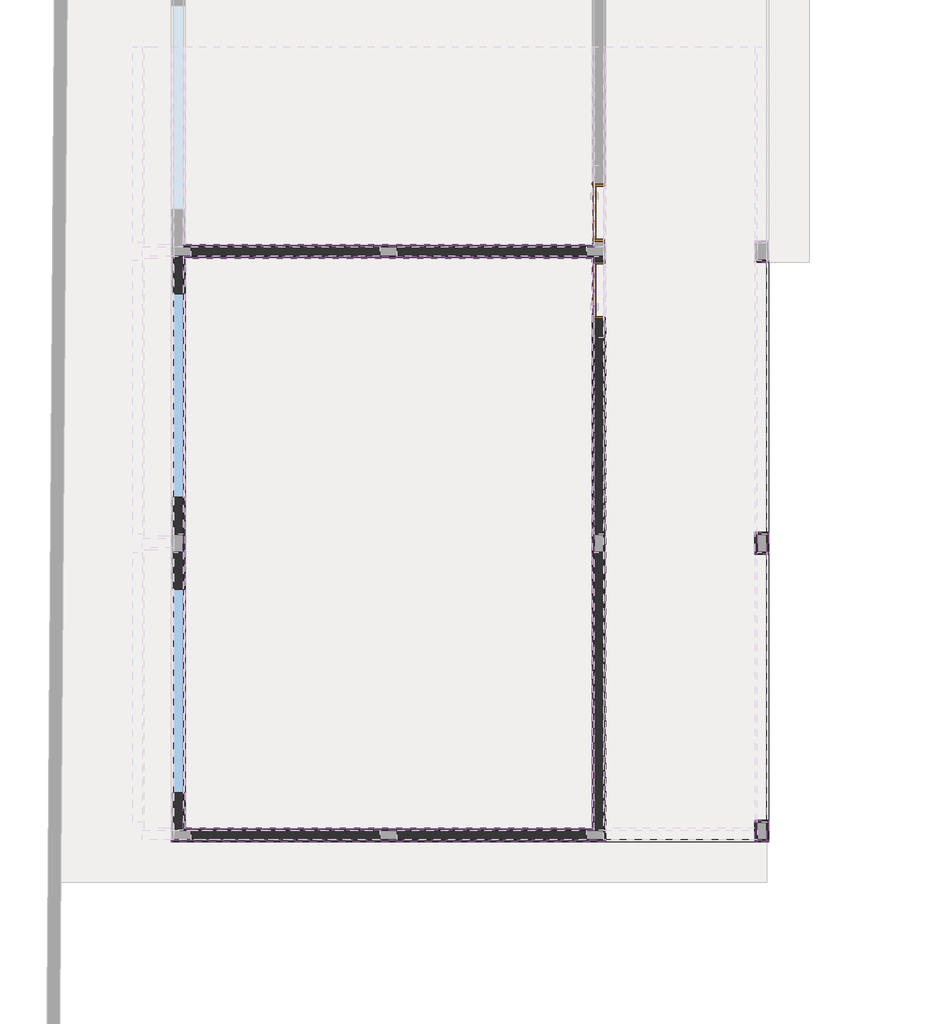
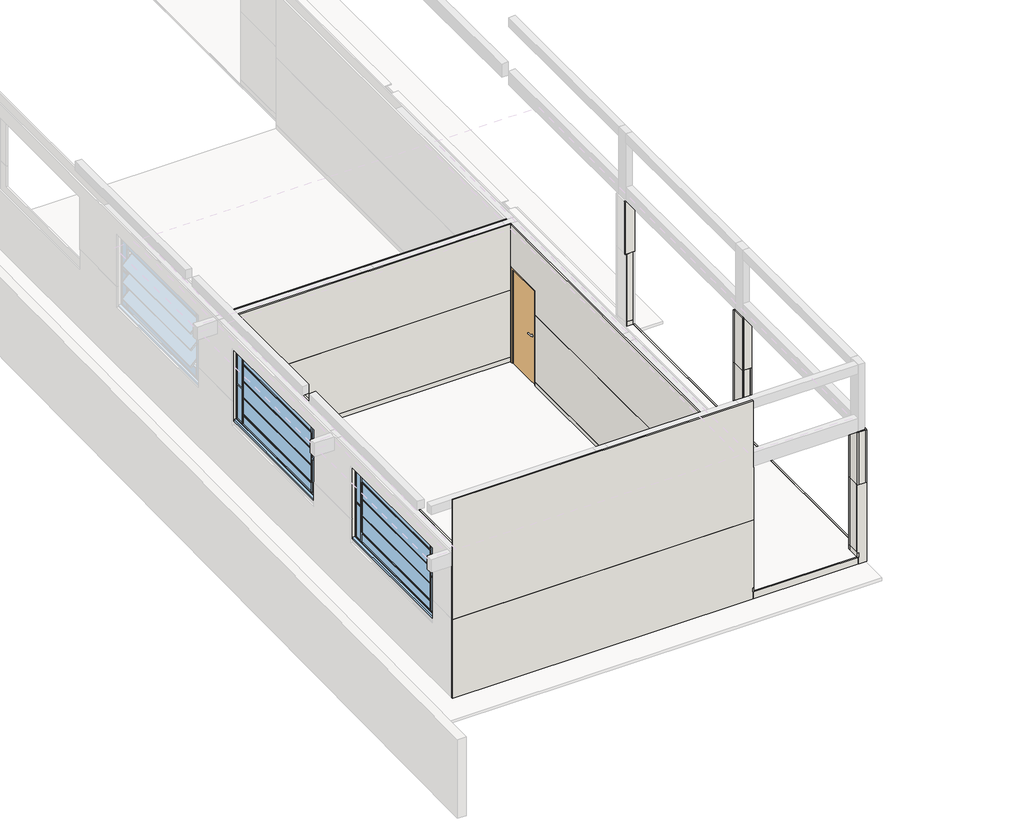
# One storey, part 1 of 11: 60 walls, 2 doors, 2 windows.
"""IFC4 building model written with IfcOpenShell, lengths in millimetres."""

from ifc_helpers import new_model, si_unit, frame, origin, place, context, project, spatial, polyline, outline, extrude, faceted_brep, transform, mapped, element, save
from components import door_80_x_210_cm_externa_36d8658d, door_80_x_210_cm_externa_7cd48cfd, window_0c15b8cc

model = new_model("IFC4")

# Units and contexts
model_context = context("Model", 3, world=origin())
ifc_project = project(units=[si_unit("LENGTHUNIT", "METRE", prefix="MILLI")], contexts=[model_context])

# Site, building, storey
site = spatial("IfcSite", under=ifc_project)
building = spatial("IfcBuilding", under=site)
storey = spatial("IfcBuildingStorey", under=building, Name="NÍVEL 1", Elevation=43.4413576)

# Doors
placement = place(None, origin())
door_80_x_210_cm_externa_shape = door_80_x_210_cm_externa_36d8658d(model_context)
element("IfcDoor", 1, ObjectType="POR_PM_GIRO_1FL : 80 x 210 cm Externa", at=placement, inside=storey, context=model_context, shape_type="MappedRepresentation", body=[
    mapped(door_80_x_210_cm_externa_shape, transform((9202.3574069, -18497.9280358, 63.4413576), x_axis=(0.0, -1.0, 0.0), y_axis=(1.0, 0.0, 0.0), z_axis=(0.0, 0.0, 1.0))),
])
door_80_x_210_cm_externa_2_shape = door_80_x_210_cm_externa_7cd48cfd(model_context)
element("IfcDoor", 2, ObjectType="POR_PM_GIRO_1FL : 80 x 210 cm Externa", at=placement, inside=storey, context=model_context, shape_type="MappedRepresentation", body=[
    mapped(door_80_x_210_cm_externa_2_shape, transform((9202.3574069, -17357.9280358, 63.4413576), x_axis=(0.0, 1.0, 0.0), y_axis=(-1.0, 0.0, 0.0), z_axis=(0.0, 0.0, 1.0))),
])

# Walls
element("IfcWall", 3, ObjectType="PARE.ALVE ALVENARIA DE BLOCOS CERÂMICOS FURADOS NA HORIZONTAL 14X9X19", at=placement, inside=storey, context=model_context, shape_type="Brep", body=[
    faceted_brep([(3072.3574069, -22357.9280358, 1203.4413576), (3072.3574069, -22357.9280358, 2843.4413576), (3072.3574069, -22907.9280358, 2843.4413576), (3072.3574069, -22907.9280358, 1203.4413576), (2932.3574069, -22357.9280358, 2843.4413576), (2932.3574069, -22357.9280358, 1203.4413576), (2932.3574069, -22907.9280358, 1203.4413576), (2932.3574069, -22907.9280358, 2843.4413576)], [[[0, 1, 2, 3]], [[4, 5, 6, 7]], [[5, 0, 3, 6]], [[1, 0, 5, 4]], [[1, 4, 7, 2]], [[3, 2, 7, 6]]]),
    faceted_brep([(3072.3574069, -26457.9280358, 2843.4413576), (3072.3574069, -26457.9280358, 1663.4413576), (3072.3574069, -26457.9280358, 1203.4413576), (3072.3574069, -25907.9280358, 1203.4413576), (3072.3574069, -25907.9280358, 2843.4413576), (2932.3574069, -26457.9280358, 1203.4413576), (2932.3574069, -26457.9280358, 2843.4413576), (2932.3574069, -25907.9280358, 2843.4413576), (2932.3574069, -25907.9280358, 1203.4413576)], [[[0, 1, 2, 3, 4]], [[5, 6, 7, 8]], [[2, 5, 8, 3]], [[6, 0, 4, 7]], [[4, 3, 8, 7]], [[0, 6, 5, 2, 1]]]),
])
element("IfcWall", 4, ObjectType="PARE.ALVE ALVENARIA DE BLOCOS CERÂMICOS FURADOS NA HORIZONTAL 14X9X19", at=placement, inside=storey, context=model_context, shape_type="Brep", body=[
    faceted_brep([(9272.3574069, -26457.9280358, 2843.4413576), (9272.3574069, -26457.9280358, 43.4413576), (9272.3574069, -22357.9280358, 43.4413576), (9272.3574069, -22357.9280358, 2843.4413576), (9132.3574069, -26457.9280358, 43.4413576), (9132.3574069, -26457.9280358, 163.4413576), (9132.3574069, -26457.9280358, 1663.4413576), (9132.3574069, -26457.9280358, 2843.4413576), (9132.3574069, -22357.9280358, 2843.4413576), (9132.3574069, -22357.9280358, 43.4413576)], [[[0, 1, 2, 3]], [[4, 5, 6, 7, 8, 9]], [[2, 1, 4, 9]], [[3, 2, 9, 8]], [[0, 3, 8, 7]], [[0, 7, 6, 5, 4, 1]]]),
])
element("IfcWall", 5, ObjectType="PARE.ALVE ALVENARIA DE BLOCOS CERÂMICOS FURADOS NA HORIZONTAL 14X9X19", at=placement, inside=storey, context=model_context, shape_type="Brep", body=[
    faceted_brep([(9272.3574069, -17997.9280358, 2843.4413576), (9272.3574069, -22097.9280358, 2843.4413576), (9272.3574069, -22097.9280358, 43.4413576), (9272.3574069, -18917.9280358, 43.4413576), (9272.3574069, -18917.9280358, 2163.4413576), (9272.3574069, -18077.9280358, 2163.4413576), (9272.3574069, -18077.9280358, 43.4413576), (9272.3574069, -17997.9280358, 43.4413576), (9272.3574069, -17997.9280358, 2208.4413576), (9272.3574069, -19197.9280358, 2208.4413576), (9272.3574069, -19197.9280358, 2308.4413576), (9272.3574069, -17997.9280358, 2308.4413576), (9132.3574069, -22097.9280358, 2843.4413576), (9132.3574069, -17997.9280358, 2843.4413576), (9132.3574069, -17997.9280358, 2308.4413576), (9132.3574069, -19197.9280358, 2308.4413576), (9132.3574069, -19197.9280358, 2208.4413576), (9132.3574069, -17997.9280358, 2208.4413576), (9132.3574069, -17997.9280358, 1663.4413576), (9132.3574069, -17997.9280358, 163.4413576), (9132.3574069, -17997.9280358, 43.4413576), (9132.3574069, -18077.9280358, 43.4413576), (9132.3574069, -18077.9280358, 2163.4413576), (9132.3574069, -18917.9280358, 2163.4413576), (9132.3574069, -18917.9280358, 43.4413576), (9132.3574069, -22097.9280358, 43.4413576)], [[[0, 1, 2, 3, 4, 5, 6, 7, 8, 9, 10, 11]], [[12, 13, 14, 15, 16, 17, 18, 19, 20, 21, 22, 23, 24, 25]], [[2, 25, 24, 3]], [[7, 6, 21, 20]], [[1, 0, 13, 12]], [[2, 1, 12, 25]], [[5, 22, 21, 6]], [[23, 4, 3, 24]], [[22, 5, 4, 23]], [[7, 20, 19, 18, 17, 8]], [[13, 0, 11, 14]], [[10, 15, 14, 11]], [[15, 10, 9, 16]], [[16, 9, 8, 17]]]),
])
element("IfcWall", 6, ObjectType="PARE.ALVE ALVENARIA DE BLOCOS CERÂMICOS FURADOS NA HORIZONTAL 14X9X19", at=placement, inside=storey, context=model_context, shape_type="SweptSolid", body=[
    extrude(outline(polyline([(5972.3574069, -26597.9280358), (3192.3574069, -26597.9280358), (3192.3574069, -26457.9280358), (5972.3574069, -26457.9280358), (5972.3574069, -26597.9280358)])), frame((0.0, 0.0, 43.4413576), z_axis=(0.0, 0.0, 1.0), x_axis=(1.0, 0.0, 0.0)), (0.0, 0.0, 1.0), 2800.0),
])
element("IfcWall", 7, ObjectType="PARE.ALVE ALVENARIA DE BLOCOS CERÂMICOS FURADOS NA HORIZONTAL 14X9X19", at=placement, inside=storey, context=model_context, shape_type="SweptSolid", body=[
    extrude(outline(polyline([(9012.3574069, -26597.9280358), (6232.3574069, -26597.9280358), (6232.3574069, -26457.9280358), (9012.3574069, -26457.9280358), (9012.3574069, -26597.9280358)])), frame((0.0, 0.0, 43.4413576), z_axis=(0.0, 0.0, 1.0), x_axis=(1.0, 0.0, 0.0)), (0.0, 0.0, 1.0), 2800.0),
])
element("IfcWall", 8, ObjectType="PARE.ALVE ALVENARIA DE BLOCOS CERÂMICOS FURADOS NA HORIZONTAL 14X9X19", at=placement, inside=storey, context=model_context, shape_type="SweptSolid", body=[
    extrude(outline(polyline([(5972.3574069, -17997.9280358), (3192.3574069, -17997.9280358), (3192.3574069, -17857.9280358), (5972.3574069, -17857.9280358), (5972.3574069, -17997.9280358)])), frame((0.0, 0.0, 43.4413576), z_axis=(0.0, 0.0, 1.0), x_axis=(1.0, 0.0, 0.0)), (0.0, 0.0, 1.0), 2800.0),
])
element("IfcWall", 9, ObjectType="PARE.ALVE ALVENARIA DE BLOCOS CERÂMICOS FURADOS NA HORIZONTAL 14X9X19", at=placement, inside=storey, context=model_context, shape_type="SweptSolid", body=[
    extrude(outline(polyline([(9012.3574069, -17997.9280358), (6232.3574069, -17997.9280358), (6232.3574069, -17857.9280358), (9012.3574069, -17857.9280358), (9012.3574069, -17997.9280358)])), frame((0.0, 0.0, 43.4413576), z_axis=(0.0, 0.0, 1.0), x_axis=(1.0, 0.0, 0.0)), (0.0, 0.0, 1.0), 2800.0),
])
element("IfcWall", 10, ObjectType="PARE.ALVE ALVENARIA DE BLOCOS CERÂMICOS FURADOS NA HORIZONTAL 14X9X19", at=placement, inside=storey, context=model_context, shape_type="Brep", body=[
    faceted_brep([(3072.3574069, -26457.9280358, 1003.4413576), (3072.3574069, -26457.9280358, 163.4413576), (3072.3574069, -26457.9280358, 63.4413576), (3072.3574069, -26457.9280358, 43.4413576), (3072.3574069, -22357.9280358, 43.4413576), (3072.3574069, -22357.9280358, 1003.4413576), (2932.3574069, -26457.9280358, 43.4413576), (2932.3574069, -26457.9280358, 1003.4413576), (2932.3574069, -22357.9280358, 1003.4413576), (2932.3574069, -22357.9280358, 43.4413576)], [[[0, 1, 2, 3, 4, 5]], [[6, 7, 8, 9]], [[4, 3, 6, 9]], [[5, 4, 9, 8]], [[0, 5, 8, 7]], [[0, 7, 6, 3, 2, 1]]]),
])
element("IfcWall", 11, ObjectType="PARE.ALVE ALVENARIA DE BLOCOS CERÂMICOS FURADOS NA HORIZONTAL 14X9X19", at=placement, inside=storey, context=model_context, shape_type="SweptSolid", body=[
    extrude(outline(polyline([(3072.3574069, -22097.9280358), (2932.3574069, -22097.9280358), (2932.3574069, -21547.9280358), (3072.3574069, -21547.9280358), (3072.3574069, -22097.9280358)])), frame((0.0, 0.0, 1203.4413576), z_axis=(0.0, 0.0, 1.0), x_axis=(1.0, 0.0, 0.0)), (0.0, 0.0, 1.0), 1640.0),
    extrude(outline(polyline([(-17997.9280358, 1663.4413576), (-18027.9280358, 1663.4413576), (-18027.9280358, 1203.4413576), (-18547.9280358, 1203.4413576), (-18547.9280358, 2843.4413576), (-17997.9280358, 2843.4413576), (-17997.9280358, 1663.4413576)])), frame((2932.3574069, 0.0, 0.0), z_axis=(1.0, 0.0, 0.0), x_axis=(0.0, 1.0, 0.0)), (0.0, 0.0, 1.0), 140.0),
])
element("IfcWall", 12, ObjectType="PARE.ALVE ALVENARIA DE BLOCOS CERÂMICOS FURADOS NA HORIZONTAL 14X9X19", at=placement, inside=storey, context=model_context, shape_type="Brep", body=[
    faceted_brep([(3072.3574069, -22097.9280358, 43.4413576), (3072.3574069, -17997.9280358, 43.4413576), (3072.3574069, -17997.9280358, 63.4413576), (3072.3574069, -17997.9280358, 163.4413576), (3072.3574069, -17997.9280358, 1003.4413576), (3072.3574069, -22097.9280358, 1003.4413576), (2932.3574069, -22097.9280358, 43.4413576), (2932.3574069, -22097.9280358, 1003.4413576), (2932.3574069, -17997.9280358, 1003.4413576), (2932.3574069, -17997.9280358, 43.4413576)], [[[0, 1, 2, 3, 4, 5]], [[6, 7, 8, 9]], [[1, 0, 6, 9]], [[5, 4, 8, 7]], [[0, 5, 7, 6]], [[1, 9, 8, 4, 3, 2]]]),
])
element("IfcWall", 13, ObjectType="RODAPÉ EM GRANILITE", at=placement, inside=storey, context=model_context, shape_type="Brep", body=[
    faceted_brep([(3072.3574069, -18027.9280358, 63.4413576), (3102.3574069, -18027.9280358, 63.4413576), (9102.3574069, -18027.9280358, 63.4413576), (9132.3574069, -18027.9280358, 63.4413576), (9132.3574069, -18027.9280358, 163.4413576), (9102.3574069, -18027.9280358, 163.4413576), (3102.3574069, -18027.9280358, 163.4413576), (3072.3574069, -18027.9280358, 163.4413576), (3072.3574069, -17997.9280358, 63.4413576), (3072.3574069, -17997.9280358, 163.4413576), (9132.3574069, -17997.9280358, 163.4413576), (9132.3574069, -17997.9280358, 63.4413576)], [[[0, 1, 2, 3, 4, 5, 6, 7]], [[8, 9, 10, 11]], [[3, 2, 1, 0, 8, 11]], [[7, 6, 5, 4, 10, 9]], [[4, 3, 11, 10]], [[0, 7, 9, 8]]]),
])
element("IfcWall", 14, ObjectType="RODAPÉ EM GRANILITE", at=placement, inside=storey, context=model_context, shape_type="SweptSolid", body=[
    extrude(outline(polyline([(9102.3574069, -18047.9280358), (9102.3574069, -18027.9280358), (9132.3574069, -18027.9280358), (9132.3574069, -18047.9280358), (9102.3574069, -18047.9280358)])), frame((0.0, 0.0, 63.4413576), z_axis=(0.0, 0.0, 1.0), x_axis=(1.0, 0.0, 0.0)), (0.0, 0.0, 1.0), 100.0),
])
element("IfcWall", 15, ObjectType="RODAPÉ EM GRANILITE", at=placement, inside=storey, context=model_context, shape_type="SweptSolid", body=[
    extrude(outline(polyline([(9102.3574069, -26427.9280358), (9102.3574069, -18947.9280358), (9132.3574069, -18947.9280358), (9132.3574069, -26427.9280358), (9102.3574069, -26427.9280358)])), frame((0.0, 0.0, 63.4413576), z_axis=(0.0, 0.0, 1.0), x_axis=(1.0, 0.0, 0.0)), (0.0, 0.0, 1.0), 100.0),
])
element("IfcWall", 16, ObjectType="RODAPÉ EM GRANILITE", at=placement, inside=storey, context=model_context, shape_type="Brep", body=[
    faceted_brep([(9132.3574069, -26427.9280358, 63.4413576), (3102.3574069, -26427.9280358, 63.4413576), (3072.3574069, -26427.9280358, 63.4413576), (3072.3574069, -26427.9280358, 163.4413576), (3102.3574069, -26427.9280358, 163.4413576), (9132.3574069, -26427.9280358, 163.4413576), (9132.3574069, -26457.9280358, 63.4413576), (9132.3574069, -26457.9280358, 163.4413576), (3072.3574069, -26457.9280358, 163.4413576), (3072.3574069, -26457.9280358, 63.4413576)], [[[0, 1, 2, 3, 4, 5]], [[6, 7, 8, 9]], [[2, 1, 0, 6, 9]], [[5, 4, 3, 8, 7]], [[3, 2, 9, 8]], [[0, 5, 7, 6]]]),
])
element("IfcWall", 17, ObjectType="RODAPÉ EM GRANILITE", at=placement, inside=storey, context=model_context, shape_type="SweptSolid", body=[
    extrude(outline(polyline([(3102.3574069, -18027.9280358), (3102.3574069, -26427.9280358), (3072.3574069, -26427.9280358), (3072.3574069, -18027.9280358), (3102.3574069, -18027.9280358)])), frame((0.0, 0.0, 63.4413576), z_axis=(0.0, 0.0, 1.0), x_axis=(1.0, 0.0, 0.0)), (0.0, 0.0, 1.0), 100.0),
])
element("IfcWall", 18, ObjectType="MASSA ÚNICA PARA BARRADO", at=placement, inside=storey, context=model_context, shape_type="SweptSolid", body=[
    extrude(outline(polyline([(9102.3574069, -18027.9280358), (9132.3574069, -18027.9280358), (9132.3574069, -18047.9280358), (9102.3574069, -18047.9280358), (9102.3574069, -18027.9280358)])), frame((0.0, 0.0, 163.4413576), z_axis=(0.0, 0.0, 1.0), x_axis=(1.0, 0.0, 0.0)), (0.0, 0.0, 1.0), 1500.0),
    extrude(outline(polyline([(9132.3574069, -26427.9280358), (9102.3574069, -26427.9280358), (9102.3574069, -18947.9280358), (9132.3574069, -18947.9280358), (9132.3574069, -26427.9280358)])), frame((0.0, 0.0, 163.4413576), z_axis=(0.0, 0.0, 1.0), x_axis=(1.0, 0.0, 0.0)), (0.0, 0.0, 1.0), 1500.0),
])
element("IfcWall", 19, ObjectType="MASSA ÚNICA PARA BARRADO", at=placement, inside=storey, context=model_context, shape_type="Brep", body=[
    faceted_brep([(3072.3574069, -18027.9280358, 163.4413576), (3102.3574069, -18027.9280358, 163.4413576), (9102.3574069, -18027.9280358, 163.4413576), (9132.3574069, -18027.9280358, 163.4413576), (9132.3574069, -18027.9280358, 1663.4413576), (9102.3574069, -18027.9280358, 1663.4413576), (3102.3574069, -18027.9280358, 1663.4413576), (3072.3574069, -18027.9280358, 1663.4413576), (2932.3574069, -18027.9280358, 1663.4413576), (2932.3574069, -18027.9280358, 1203.4413576), (3072.3574069, -18027.9280358, 1203.4413576), (3072.3574069, -17997.9280358, 163.4413576), (3072.3574069, -17997.9280358, 1203.4413576), (2932.3574069, -17997.9280358, 1203.4413576), (2932.3574069, -17997.9280358, 1663.4413576), (3072.3574069, -17997.9280358, 1663.4413576), (9132.3574069, -17997.9280358, 1663.4413576), (9132.3574069, -17997.9280358, 163.4413576)], [[[0, 1, 2, 3, 4, 5, 6, 7, 8, 9, 10]], [[11, 12, 13, 14, 15, 16, 17]], [[3, 2, 1, 0, 11, 17]], [[8, 7, 6, 5, 4, 16, 15, 14]], [[9, 13, 12, 10]], [[0, 10, 12, 11]], [[9, 8, 14, 13]], [[4, 3, 17, 16]]]),
])
element("IfcWall", 20, ObjectType="MASSA ÚNICA PARA BARRADO", at=placement, inside=storey, context=model_context, shape_type="Brep", body=[
    faceted_brep([(9132.3574069, -26427.9280358, 163.4413576), (9102.3574069, -26427.9280358, 163.4413576), (3102.3574069, -26427.9280358, 163.4413576), (3072.3574069, -26427.9280358, 163.4413576), (3072.3574069, -26427.9280358, 1663.4413576), (3102.3574069, -26427.9280358, 1663.4413576), (9102.3574069, -26427.9280358, 1663.4413576), (9132.3574069, -26427.9280358, 1663.4413576), (9132.3574069, -26457.9280358, 163.4413576), (9132.3574069, -26457.9280358, 1663.4413576), (3072.3574069, -26457.9280358, 1663.4413576), (3072.3574069, -26457.9280358, 1203.4413576), (3072.3574069, -26457.9280358, 163.4413576)], [[[0, 1, 2, 3, 4, 5, 6, 7]], [[8, 9, 10, 11, 12]], [[3, 2, 1, 0, 8, 12]], [[7, 6, 5, 4, 10, 9]], [[3, 12, 11, 10, 4]], [[0, 7, 9, 8]]]),
])
element("IfcWall", 21, ObjectType="MASSA ÚNICA PARA BARRADO", at=placement, inside=storey, context=model_context, shape_type="Brep", body=[
    faceted_brep([(3102.3574069, -26427.9280358, 163.4413576), (3102.3574069, -18027.9280358, 163.4413576), (3102.3574069, -18027.9280358, 1663.4413576), (3102.3574069, -18547.9280358, 1663.4413576), (3102.3574069, -18547.9280358, 1203.4413576), (3102.3574069, -21547.9280358, 1203.4413576), (3102.3574069, -21547.9280358, 1663.4413576), (3102.3574069, -22907.9280358, 1663.4413576), (3102.3574069, -22907.9280358, 1203.4413576), (3102.3574069, -25907.9280358, 1203.4413576), (3102.3574069, -25907.9280358, 1663.4413576), (3102.3574069, -26427.9280358, 1663.4413576), (3072.3574069, -18027.9280358, 163.4413576), (3072.3574069, -26427.9280358, 163.4413576), (3072.3574069, -26427.9280358, 1663.4413576), (3072.3574069, -25907.9280358, 1663.4413576), (3072.3574069, -25907.9280358, 1203.4413576), (3072.3574069, -22907.9280358, 1203.4413576), (3072.3574069, -22907.9280358, 1663.4413576), (3072.3574069, -21547.9280358, 1663.4413576), (3072.3574069, -21547.9280358, 1203.4413576), (3072.3574069, -18547.9280358, 1203.4413576), (3072.3574069, -18547.9280358, 1663.4413576), (3072.3574069, -18027.9280358, 1663.4413576), (3072.3574069, -18027.9280358, 1203.4413576)], [[[0, 1, 2, 3, 4, 5, 6, 7, 8, 9, 10, 11]], [[12, 13, 14, 15, 16, 17, 18, 19, 20, 21, 22, 23, 24]], [[1, 0, 13, 12]], [[14, 11, 10, 15]], [[2, 23, 22, 3]], [[18, 7, 6, 19]], [[2, 1, 12, 24, 23]], [[0, 11, 14, 13]], [[8, 17, 16, 9]], [[9, 16, 15, 10]], [[17, 8, 7, 18]], [[4, 21, 20, 5]], [[5, 20, 19, 6]], [[21, 4, 3, 22]]]),
])
element("IfcWall", 22, ObjectType="MASSA ÚNICA PARA LATEX", at=placement, inside=storey, context=model_context, shape_type="Brep", body=[
    faceted_brep([(3072.3574069, -18027.9280358, 1663.4413576), (3102.3574069, -18027.9280358, 1663.4413576), (9102.3574069, -18027.9280358, 1663.4413576), (9132.3574069, -18027.9280358, 1663.4413576), (9132.3574069, -18027.9280358, 3143.4413576), (9102.3574069, -18027.9280358, 3143.4413576), (3102.3574069, -18027.9280358, 3143.4413576), (3072.3574069, -18027.9280358, 3143.4413576), (3072.3574069, -17997.9280358, 1663.4413576), (3072.3574069, -17997.9280358, 2843.4413576), (3072.3574069, -17997.9280358, 3143.4413576), (9132.3574069, -17997.9280358, 3143.4413576), (9132.3574069, -17997.9280358, 2843.4413576), (9132.3574069, -17997.9280358, 2308.4413576), (9132.3574069, -17997.9280358, 2208.4413576), (9132.3574069, -17997.9280358, 1663.4413576)], [[[0, 1, 2, 3, 4, 5, 6, 7]], [[8, 9, 10, 11, 12, 13, 14, 15]], [[3, 2, 1, 0, 8, 15]], [[7, 6, 5, 4, 11, 10]], [[4, 3, 15, 14, 13, 12, 11]], [[0, 7, 10, 9, 8]]]),
])
element("IfcWall", 23, ObjectType="MASSA ÚNICA PARA LATEX", at=placement, inside=storey, context=model_context, shape_type="SweptSolid", body=[
    extrude(outline(polyline([(-26427.9280358, 1663.4413576), (-26427.9280358, 3143.4413576), (-18027.9280358, 3143.4413576), (-18027.9280358, 1663.4413576), (-18047.9280358, 1663.4413576), (-18047.9280358, 2213.4413576), (-18947.9280358, 2213.4413576), (-18947.9280358, 1663.4413576), (-26427.9280358, 1663.4413576)])), frame((9102.3574069, 0.0, 0.0), z_axis=(1.0, 0.0, 0.0), x_axis=(0.0, 1.0, 0.0)), (0.0, 0.0, 1.0), 30.0),
])
element("IfcWall", 24, ObjectType="MASSA ÚNICA PARA LATEX", at=placement, inside=storey, context=model_context, shape_type="Brep", body=[
    faceted_brep([(9132.3574069, -26427.9280358, 3143.4413576), (9132.3574069, -26427.9280358, 1663.4413576), (9102.3574069, -26427.9280358, 1663.4413576), (3102.3574069, -26427.9280358, 1663.4413576), (3072.3574069, -26427.9280358, 1663.4413576), (3072.3574069, -26427.9280358, 3143.4413576), (3102.3574069, -26427.9280358, 3143.4413576), (9102.3574069, -26427.9280358, 3143.4413576), (9132.3574069, -26457.9280358, 1663.4413576), (9132.3574069, -26457.9280358, 2843.4413576), (9132.3574069, -26457.9280358, 3143.4413576), (3072.3574069, -26457.9280358, 3143.4413576), (3072.3574069, -26457.9280358, 2843.4413576), (3072.3574069, -26457.9280358, 1663.4413576)], [[[0, 1, 2, 3, 4, 5, 6, 7]], [[8, 9, 10, 11, 12, 13]], [[4, 3, 2, 1, 8, 13]], [[0, 7, 6, 5, 11, 10]], [[5, 4, 13, 12, 11]], [[0, 10, 9, 8, 1]]]),
])
element("IfcWall", 25, ObjectType="MASSA ÚNICA PARA LATEX", at=placement, inside=storey, context=model_context, shape_type="SweptSolid", body=[
    extrude(outline(polyline([(-18027.9280358, 3143.4413576), (-18027.9280358, 1663.4413576), (-18547.9280358, 1663.4413576), (-18547.9280358, 2843.4413576), (-21548.2227816, 2843.4413576), (-21548.2227816, 1663.4413576), (-22907.8834454, 1663.4413576), (-22907.8834454, 2843.4413576), (-25908.1688014, 2843.4413576), (-25908.1688014, 1663.4413576), (-26427.9280358, 1663.4413576), (-26427.9280358, 3143.4413576), (-18027.9280358, 3143.4413576)])), frame((3072.3574069, 0.0, 0.0), z_axis=(1.0, 0.0, 0.0), x_axis=(0.0, 1.0, 0.0)), (0.0, 0.0, 1.0), 30.0),
])
element("IfcWall", 26, ObjectType="RODAPÉ EM GRANILITE", at=placement, inside=storey, context=model_context, shape_type="Brep", body=[
    faceted_brep([(9302.3574069, -26627.9280358, 43.4413576), (9302.3574069, -18942.9280358, 43.4413576), (9302.3574069, -18942.9280358, 143.4413576), (9302.3574069, -26597.9280358, 143.4413576), (9302.3574069, -26627.9280358, 143.4413576), (9272.3574069, -26627.9280358, 43.4413576), (9272.3574069, -26627.9280358, 143.4413576), (9272.3574069, -26597.9280358, 143.4413576), (9272.3574069, -18942.9280358, 143.4413576), (9272.3574069, -18942.9280358, 43.4413576), (9272.3574069, -26597.9280358, 43.4413576), (9287.3574069, -26627.9280358, 43.4413576)], [[[0, 1, 2, 3, 4]], [[5, 6, 7, 8, 9, 10]], [[1, 0, 11, 5, 10, 9]], [[2, 1, 9, 8]], [[4, 3, 2, 8, 7, 6]], [[0, 4, 6, 5, 11]]]),
])
element("IfcWall", 27, ObjectType="MASSA ÚNICA SARRAFEADA PARA ACRILICO", at=placement, inside=storey, context=model_context, shape_type="Brep", body=[
    faceted_brep([(2902.3574069, -26627.9280358, 1663.4413576), (9302.3574069, -26627.9280358, 1663.4413576), (9302.3574069, -26627.9280358, 2843.4413576), (9287.3574069, -26627.9280358, 2843.4413576), (9287.3574069, -26627.9280358, 4343.4413576), (2917.3574069, -26627.9280358, 4343.4413576), (2917.3574069, -26627.9280358, 2843.4413576), (2902.3574069, -26627.9280358, 2843.4413576), (2902.3574069, -26597.9280358, 1663.4413576), (2902.3574069, -26597.9280358, 2843.4413576), (2917.3574069, -26597.9280358, 2843.4413576), (2917.3574069, -26597.9280358, 4343.4413576), (9287.3574069, -26597.9280358, 4343.4413576), (9287.3574069, -26597.9280358, 2843.4413576), (9302.3574069, -26597.9280358, 2843.4413576), (9302.3574069, -26597.9280358, 1663.4413576), (9272.3574069, -26597.9280358, 1663.4413576), (2932.3574069, -26597.9280358, 1663.4413576)], [[[0, 1, 2, 3, 4, 5, 6, 7]], [[8, 9, 10, 11, 12, 13, 14, 15, 16, 17]], [[1, 0, 8, 17, 16, 15]], [[5, 4, 12, 11]], [[13, 3, 2, 14]], [[2, 1, 15, 14]], [[3, 13, 12, 4]], [[5, 11, 10, 6]], [[6, 10, 9, 7]], [[0, 7, 9, 8]]]),
])
element("IfcWall", 28, ObjectType="RODAPÉ EM GRANILITE", at=placement, inside=storey, context=model_context, shape_type="Brep", body=[
    faceted_brep([(11702.3574069, -26307.9280358, 43.4413576), (11502.3574069, -26307.9280358, 43.4413576), (11502.3574069, -26307.9280358, 143.4413576), (11672.3574069, -26307.9280358, 143.4413576), (11702.3574069, -26307.9280358, 143.4413576), (11702.3574069, -26337.9280358, 43.4413576), (11702.3574069, -26337.9280358, 143.4413576), (11672.3574069, -26337.9280358, 143.4413576), (11532.3574069, -26337.9280358, 143.4413576), (11502.3574069, -26337.9280358, 143.4413576), (11502.3574069, -26337.9280358, 43.4413576), (11532.3574069, -26337.9280358, 43.4413576), (11672.3574069, -26337.9280358, 43.4413576), (11702.3574069, -26322.9280358, 43.4413576)], [[[0, 1, 2, 3, 4]], [[5, 6, 7, 8, 9, 10, 11, 12]], [[1, 0, 13, 5, 12, 11, 10]], [[4, 3, 2, 9, 8, 7, 6]], [[2, 1, 10, 9]], [[0, 4, 6, 5, 13]]]),
])
element("IfcWall", 29, ObjectType="RODAPÉ EM GRANILITE", at=placement, inside=storey, context=model_context, shape_type="Brep", body=[
    faceted_brep([(11502.3574069, -26337.9280358, 43.4413576), (11502.3574069, -26627.9280358, 43.4413576), (11502.3574069, -26627.9280358, 143.4413576), (11502.3574069, -26597.9280358, 143.4413576), (11502.3574069, -26337.9280358, 143.4413576), (11532.3574069, -26337.9280358, 43.4413576), (11532.3574069, -26337.9280358, 143.4413576), (11532.3574069, -26597.9280358, 143.4413576), (11532.3574069, -26627.9280358, 143.4413576), (11532.3574069, -26627.9280358, 43.4413576), (11532.3574069, -26597.9280358, 43.4413576), (11517.3574069, -26627.9280358, 43.4413576)], [[[0, 1, 2, 3, 4]], [[5, 6, 7, 8, 9, 10]], [[1, 0, 5, 10, 9, 11]], [[4, 3, 2, 8, 7, 6]], [[0, 4, 6, 5]], [[2, 1, 11, 9, 8]]]),
])
element("IfcWall", 30, ObjectType="RODAPÉ EM GRANILITE", at=placement, inside=storey, context=model_context, shape_type="Brep", body=[
    faceted_brep([(11672.3574069, -22067.9280358, 43.4413576), (11502.3574069, -22067.9280358, 43.4413576), (11502.3574069, -22067.9280358, 143.4413576), (11672.3574069, -22067.9280358, 143.4413576), (11672.3574069, -22097.9280358, 43.4413576), (11672.3574069, -22097.9280358, 143.4413576), (11532.3574069, -22097.9280358, 143.4413576), (11502.3574069, -22097.9280358, 143.4413576), (11502.3574069, -22097.9280358, 43.4413576), (11532.3574069, -22097.9280358, 43.4413576), (11672.3574069, -22082.9280358, 43.4413576)], [[[0, 1, 2, 3]], [[4, 5, 6, 7, 8, 9]], [[1, 0, 10, 4, 9, 8]], [[3, 2, 7, 6, 5]], [[2, 1, 8, 7]], [[0, 3, 5, 4, 10]]]),
])
element("IfcWall", 31, ObjectType="RODAPÉ EM GRANILITE", at=placement, inside=storey, context=model_context, shape_type="Brep", body=[
    faceted_brep([(11502.3574069, -22097.9280358, 43.4413576), (11502.3574069, -22387.9280358, 43.4413576), (11502.3574069, -22387.9280358, 143.4413576), (11502.3574069, -22097.9280358, 143.4413576), (11532.3574069, -22097.9280358, 43.4413576), (11532.3574069, -22097.9280358, 143.4413576), (11532.3574069, -22357.9280358, 143.4413576), (11532.3574069, -22387.9280358, 143.4413576), (11532.3574069, -22387.9280358, 43.4413576), (11532.3574069, -22357.9280358, 43.4413576)], [[[0, 1, 2, 3]], [[4, 5, 6, 7, 8, 9]], [[1, 0, 4, 9, 8]], [[3, 2, 7, 6, 5]], [[0, 3, 5, 4]], [[2, 1, 8, 7]]]),
])
element("IfcWall", 32, ObjectType="RODAPÉ EM GRANILITE", at=placement, inside=storey, context=model_context, shape_type="Brep", body=[
    faceted_brep([(11532.3574069, -22387.9280358, 43.4413576), (11672.3574069, -22387.9280358, 43.4413576), (11672.3574069, -22387.9280358, 143.4413576), (11532.3574069, -22387.9280358, 143.4413576), (11532.3574069, -22357.9280358, 43.4413576), (11532.3574069, -22357.9280358, 143.4413576), (11672.3574069, -22357.9280358, 143.4413576), (11672.3574069, -22357.9280358, 43.4413576), (11672.3574069, -22372.9280358, 43.4413576)], [[[0, 1, 2, 3]], [[4, 5, 6, 7]], [[1, 0, 4, 7, 8]], [[3, 2, 6, 5]], [[0, 3, 5, 4]], [[2, 1, 8, 7, 6]]]),
])
element("IfcWall", 33, ObjectType="RODAPÉ EM GRANILITE", at=placement, inside=storey, context=model_context, shape_type="Brep", body=[
    faceted_brep([(11532.3574069, -18087.9280358, 43.4413576), (11672.3574069, -18087.9280358, 43.4413576), (11672.3574069, -18087.9280358, 143.4413576), (11532.3574069, -18087.9280358, 143.4413576), (11532.3574069, -18057.9280358, 43.4413576), (11532.3574069, -18057.9280358, 143.4413576), (11672.3574069, -18057.9280358, 143.4413576), (11672.3574069, -18057.9280358, 43.4413576), (11672.3574069, -18072.9280358, 43.4413576)], [[[0, 1, 2, 3]], [[4, 5, 6, 7]], [[1, 0, 4, 7, 8]], [[3, 2, 6, 5]], [[0, 3, 5, 4]], [[2, 1, 8, 7, 6]]]),
])
element("IfcWall", 34, ObjectType="MASSA ÚNICA PARA BARRADO", at=placement, inside=storey, context=model_context, shape_type="Brep", body=[
    faceted_brep([(11517.3574069, -26627.9280358, -106.5586424), (11702.3574069, -26627.9280358, -106.5586424), (11702.3574069, -26627.9280358, 1663.4413576), (11502.3574069, -26627.9280358, 1663.4413576), (11502.3574069, -26627.9280358, 143.4413576), (11532.3574069, -26627.9280358, 143.4413576), (11532.3574069, -26627.9280358, 43.4413576), (11517.3574069, -26627.9280358, 43.4413576), (11517.3574069, -26597.9280358, -106.5586424), (11517.3574069, -26597.9280358, 43.4413576), (11532.3574069, -26597.9280358, 43.4413576), (11532.3574069, -26597.9280358, 143.4413576), (11502.3574069, -26597.9280358, 143.4413576), (11502.3574069, -26597.9280358, 1663.4413576), (11532.3574069, -26597.9280358, 1663.4413576), (11672.3574069, -26597.9280358, 1663.4413576), (11702.3574069, -26597.9280358, 1663.4413576), (11702.3574069, -26597.9280358, -106.5586424), (11672.3574069, -26597.9280358, -106.5586424)], [[[0, 1, 2, 3, 4, 5, 6, 7]], [[8, 9, 10, 11, 12, 13, 14, 15, 16, 17, 18]], [[1, 0, 8, 18, 17]], [[3, 2, 16, 15, 14, 13]], [[2, 1, 17, 16]], [[0, 7, 9, 8]], [[6, 10, 9, 7]], [[4, 12, 11, 5]], [[6, 5, 11, 10]], [[4, 3, 13, 12]]]),
])
element("IfcWall", 35, ObjectType="MASSA ÚNICA PARA BARRADO", at=placement, inside=storey, context=model_context, shape_type="Brep", body=[
    faceted_brep([(11702.3574069, -26597.9280358, -106.5586424), (11702.3574069, -26322.9280358, -106.5586424), (11702.3574069, -26322.9280358, 43.4413576), (11702.3574069, -26337.9280358, 43.4413576), (11702.3574069, -26337.9280358, 143.4413576), (11702.3574069, -26307.9280358, 143.4413576), (11702.3574069, -26307.9280358, 1663.4413576), (11702.3574069, -26597.9280358, 1663.4413576), (11672.3574069, -26597.9280358, -106.5586424), (11672.3574069, -26597.9280358, 1663.4413576), (11672.3574069, -26337.9280358, 1663.4413576), (11672.3574069, -26307.9280358, 1663.4413576), (11672.3574069, -26307.9280358, 143.4413576), (11672.3574069, -26337.9280358, 143.4413576), (11672.3574069, -26337.9280358, 43.4413576), (11672.3574069, -26322.9280358, 43.4413576), (11672.3574069, -26322.9280358, -106.5586424)], [[[0, 1, 2, 3, 4, 5, 6, 7]], [[8, 9, 10, 11, 12, 13, 14, 15, 16]], [[1, 0, 8, 16]], [[7, 6, 11, 10, 9]], [[0, 7, 9, 8]], [[2, 1, 16, 15]], [[14, 3, 2, 15]], [[12, 5, 4, 13]], [[4, 3, 14, 13]], [[6, 5, 12, 11]]]),
])
element("IfcWall", 36, ObjectType="MASSA ÚNICA PARA BARRADO", at=placement, inside=storey, context=model_context, shape_type="Brep", body=[
    faceted_brep([(9287.3574069, -26627.9280358, -106.5586424), (11517.3574069, -26627.9280358, -106.5586424), (11517.3574069, -26627.9280358, 43.4413576), (11502.3574069, -26627.9280358, 43.4413576), (9302.3574069, -26627.9280358, 43.4413576), (9287.3574069, -26627.9280358, 43.4413576), (9287.3574069, -26597.9280358, -106.5586424), (9287.3574069, -26597.9280358, 43.4413576), (11517.3574069, -26597.9280358, 43.4413576), (11517.3574069, -26597.9280358, -106.5586424)], [[[0, 1, 2, 3, 4, 5]], [[6, 7, 8, 9]], [[1, 0, 6, 9]], [[2, 1, 9, 8]], [[5, 4, 3, 2, 8, 7]], [[0, 5, 7, 6]]]),
])
element("IfcWall", 37, ObjectType="MASSA ÚNICA PARA BARRADO", at=placement, inside=storey, context=model_context, shape_type="Brep", body=[
    faceted_brep([(11702.3574069, -26322.9280358, -106.5586424), (11702.3574069, -22372.9280358, -106.5586424), (11702.3574069, -22372.9280358, 43.4413576), (11702.3574069, -22387.9280358, 43.4413576), (11702.3574069, -26307.9280358, 43.4413576), (11702.3574069, -26322.9280358, 43.4413576), (11672.3574069, -26322.9280358, -106.5586424), (11672.3574069, -26322.9280358, 43.4413576), (11672.3574069, -22387.9280358, 43.4413576), (11672.3574069, -22372.9280358, 43.4413576), (11672.3574069, -22372.9280358, -106.5586424)], [[[0, 1, 2, 3, 4, 5]], [[6, 7, 8, 9, 10]], [[1, 0, 6, 10]], [[2, 1, 10, 9]], [[5, 4, 3, 2, 9, 8, 7]], [[0, 5, 7, 6]]]),
])
element("IfcWall", 38, ObjectType="MASSA ÚNICA PARA BARRADO", at=placement, inside=storey, context=model_context, shape_type="Brep", body=[
    faceted_brep([(11702.3574069, -22082.9280358, -106.5586424), (11702.3574069, -18072.9280358, -106.5586424), (11702.3574069, -18072.9280358, 43.4413576), (11702.3574069, -18087.9280358, 43.4413576), (11702.3574069, -22067.9280358, 43.4413576), (11702.3574069, -22082.9280358, 43.4413576), (11672.3574069, -22082.9280358, -106.5586424), (11672.3574069, -22082.9280358, 43.4413576), (11672.3574069, -22067.9280358, 43.4413576), (11672.3574069, -18087.9280358, 43.4413576), (11672.3574069, -18072.9280358, 43.4413576), (11672.3574069, -18072.9280358, -106.5586424)], [[[0, 1, 2, 3, 4, 5]], [[6, 7, 8, 9, 10, 11]], [[1, 0, 6, 11]], [[2, 1, 11, 10]], [[5, 4, 3, 2, 10, 9, 8, 7]], [[0, 5, 7, 6]]]),
])
element("IfcWall", 39, ObjectType="MASSA ÚNICA PARA BARRADO", at=placement, inside=storey, context=model_context, shape_type="Brep", body=[
    faceted_brep([(11702.3574069, -22372.9280358, -106.5586424), (11702.3574069, -22082.9280358, -106.5586424), (11702.3574069, -22082.9280358, 43.4413576), (11702.3574069, -22067.9280358, 43.4413576), (11702.3574069, -22067.9280358, 1663.4413576), (11702.3574069, -22387.9280358, 1663.4413576), (11702.3574069, -22387.9280358, 43.4413576), (11702.3574069, -22372.9280358, 43.4413576), (11672.3574069, -22372.9280358, -106.5586424), (11672.3574069, -22372.9280358, 43.4413576), (11672.3574069, -22387.9280358, 43.4413576), (11672.3574069, -22387.9280358, 143.4413576), (11672.3574069, -22387.9280358, 1663.4413576), (11672.3574069, -22357.9280358, 1663.4413576), (11672.3574069, -22097.9280358, 1663.4413576), (11672.3574069, -22067.9280358, 1663.4413576), (11672.3574069, -22067.9280358, 143.4413576), (11672.3574069, -22067.9280358, 43.4413576), (11672.3574069, -22082.9280358, 43.4413576), (11672.3574069, -22082.9280358, -106.5586424)], [[[0, 1, 2, 3, 4, 5, 6, 7]], [[8, 9, 10, 11, 12, 13, 14, 15, 16, 17, 18, 19]], [[1, 0, 8, 19]], [[5, 4, 15, 14, 13, 12]], [[0, 7, 9, 8]], [[6, 10, 9, 7]], [[2, 1, 19, 18]], [[17, 3, 2, 18]], [[3, 17, 16, 15, 4]], [[5, 12, 11, 10, 6]]]),
])
element("IfcWall", 40, ObjectType="MASSA ÚNICA PARA BARRADO", at=placement, inside=storey, context=model_context, shape_type="Brep", body=[
    faceted_brep([(2902.3574069, -26627.9280358, -106.5586424), (9287.3574069, -26627.9280358, -106.5586424), (9287.3574069, -26627.9280358, 43.4413576), (9272.3574069, -26627.9280358, 43.4413576), (9272.3574069, -26627.9280358, 143.4413576), (9302.3574069, -26627.9280358, 143.4413576), (9302.3574069, -26627.9280358, 1663.4413576), (2902.3574069, -26627.9280358, 1663.4413576), (2902.3574069, -26597.9280358, -106.5586424), (2902.3574069, -26597.9280358, 1663.4413576), (2932.3574069, -26597.9280358, 1663.4413576), (9272.3574069, -26597.9280358, 1663.4413576), (9302.3574069, -26597.9280358, 1663.4413576), (9302.3574069, -26597.9280358, 143.4413576), (9272.3574069, -26597.9280358, 143.4413576), (9272.3574069, -26597.9280358, 43.4413576), (9287.3574069, -26597.9280358, 43.4413576), (9287.3574069, -26597.9280358, -106.5586424), (2932.3574069, -26597.9280358, -106.5586424)], [[[0, 1, 2, 3, 4, 5, 6, 7]], [[8, 9, 10, 11, 12, 13, 14, 15, 16, 17, 18]], [[1, 0, 8, 18, 17]], [[7, 6, 12, 11, 10, 9]], [[2, 1, 17, 16]], [[15, 3, 2, 16]], [[13, 5, 4, 14]], [[4, 3, 15, 14]], [[0, 7, 9, 8]], [[6, 5, 13, 12]]]),
])
element("IfcWall", 41, ObjectType="RODAPÉ EM GRANILITE", at=placement, inside=storey, context=model_context, shape_type="SweptSolid", body=[
    extrude(outline(polyline([(9102.3574069, -17827.9280358), (9102.3574069, -17807.9280358), (9132.3574069, -17807.9280358), (9132.3574069, -17827.9280358), (9102.3574069, -17827.9280358)])), frame((0.0, 0.0, 63.4413576), z_axis=(0.0, 0.0, 1.0), x_axis=(1.0, 0.0, 0.0)), (0.0, 0.0, 1.0), 100.0),
])
element("IfcWall", 42, ObjectType="RODAPÉ EM GRANILITE", at=placement, inside=storey, context=model_context, shape_type="Brep", body=[
    faceted_brep([(9132.3574069, -17827.9280358, 63.4413576), (9102.3574069, -17827.9280358, 63.4413576), (3102.3574069, -17827.9280358, 63.4413576), (3072.3574069, -17827.9280358, 63.4413576), (3072.3574069, -17827.9280358, 163.4413576), (3102.3574069, -17827.9280358, 163.4413576), (9102.3574069, -17827.9280358, 163.4413576), (9132.3574069, -17827.9280358, 163.4413576), (9132.3574069, -17857.9280358, 63.4413576), (9132.3574069, -17857.9280358, 163.4413576), (3072.3574069, -17857.9280358, 163.4413576), (3072.3574069, -17857.9280358, 63.4413576)], [[[0, 1, 2, 3, 4, 5, 6, 7]], [[8, 9, 10, 11]], [[3, 2, 1, 0, 8, 11]], [[7, 6, 5, 4, 10, 9]], [[0, 7, 9, 8]], [[4, 3, 11, 10]]]),
])
element("IfcWall", 43, ObjectType="RODAPÉ EM GRANILITE", at=placement, inside=storey, context=model_context, shape_type="SweptSolid", body=[
    extrude(outline(polyline([(9302.3574069, -17802.9280358), (9302.3574069, -18052.9280358), (9272.3574069, -18052.9280358), (9272.3574069, -17802.9280358), (9302.3574069, -17802.9280358)])), frame((0.0, 0.0, 43.4413576), z_axis=(0.0, 0.0, 1.0), x_axis=(1.0, 0.0, 0.0)), (0.0, 0.0, 1.0), 100.0),
])
element("IfcWall", 44, ObjectType="MASSA ÚNICA PARA BARRADO", at=placement, inside=storey, context=model_context, shape_type="SweptSolid", body=[
    extrude(outline(polyline([(9102.3574069, -17827.9280358), (9102.3574069, -17807.9280358), (9132.3574069, -17807.9280358), (9132.3574069, -17827.9280358), (9102.3574069, -17827.9280358)])), frame((0.0, 0.0, 163.4413576), z_axis=(0.0, 0.0, 1.0), x_axis=(1.0, 0.0, 0.0)), (0.0, 0.0, 1.0), 1500.0),
])
element("IfcWall", 45, ObjectType="MASSA ÚNICA PARA BARRADO", at=placement, inside=storey, context=model_context, shape_type="Brep", body=[
    faceted_brep([(9132.3574069, -17827.9280358, 163.4413576), (9102.3574069, -17827.9280358, 163.4413576), (3102.3574069, -17827.9280358, 163.4413576), (3072.3574069, -17827.9280358, 163.4413576), (3072.3574069, -17827.9280358, 1663.4413576), (3102.3574069, -17827.9280358, 1663.4413576), (9102.3574069, -17827.9280358, 1663.4413576), (9132.3574069, -17827.9280358, 1663.4413576), (9132.3574069, -17857.9280358, 163.4413576), (9132.3574069, -17857.9280358, 1663.4413576), (3072.3574069, -17857.9280358, 1663.4413576), (3072.3574069, -17857.9280358, 1203.4413576), (3072.3574069, -17857.9280358, 1003.4413576), (3072.3574069, -17857.9280358, 163.4413576)], [[[0, 1, 2, 3, 4, 5, 6, 7]], [[8, 9, 10, 11, 12, 13]], [[3, 2, 1, 0, 8, 13]], [[7, 6, 5, 4, 10, 9]], [[0, 7, 9, 8]], [[4, 3, 13, 12, 11, 10]]]),
])
element("IfcWall", 46, ObjectType="MASSA ÚNICA PARA LATEX", at=placement, inside=storey, context=model_context, shape_type="Brep", body=[
    faceted_brep([(9132.3574069, -17827.9280358, 3143.4413576), (9132.3574069, -17827.9280358, 1663.4413576), (9102.3574069, -17827.9280358, 1663.4413576), (3102.3574069, -17827.9280358, 1663.4413576), (3072.3574069, -17827.9280358, 1663.4413576), (3072.3574069, -17827.9280358, 3143.4413576), (3102.3574069, -17827.9280358, 3143.4413576), (9102.3574069, -17827.9280358, 3143.4413576), (9132.3574069, -17857.9280358, 1663.4413576), (9132.3574069, -17857.9280358, 2208.4413576), (9132.3574069, -17857.9280358, 2308.4413576), (9132.3574069, -17857.9280358, 2843.4413576), (9132.3574069, -17857.9280358, 3143.4413576), (3072.3574069, -17857.9280358, 3143.4413576), (3072.3574069, -17857.9280358, 2843.4413576), (3072.3574069, -17857.9280358, 1663.4413576)], [[[0, 1, 2, 3, 4, 5, 6, 7]], [[8, 9, 10, 11, 12, 13, 14, 15]], [[4, 3, 2, 1, 8, 15]], [[0, 7, 6, 5, 13, 12]], [[0, 12, 11, 10, 9, 8, 1]], [[5, 4, 15, 14, 13]]]),
])
element("IfcWall", 47, ObjectType="MASSA ÚNICA PARA BARRADO", at=placement, inside=storey, context=model_context, shape_type="SweptSolid", body=[
    extrude(outline(polyline([(9302.3574069, -18942.9280358), (9302.3574069, -26597.9280358), (9272.3574069, -26597.9280358), (9272.3574069, -18942.9280358), (9302.3574069, -18942.9280358)])), frame((0.0, 0.0, 143.4413576), z_axis=(0.0, 0.0, 1.0), x_axis=(1.0, 0.0, 0.0)), (0.0, 0.0, 1.0), 1520.0),
])
element("IfcWall", 48, ObjectType="MASSA ÚNICA PARA BARRADO", at=placement, inside=storey, context=model_context, shape_type="Brep", body=[
    faceted_brep([(11672.3574069, -26307.9280358, 143.4413576), (11502.3574069, -26307.9280358, 143.4413576), (11502.3574069, -26307.9280358, 1663.4413576), (11672.3574069, -26307.9280358, 1663.4413576), (11672.3574069, -26337.9280358, 143.4413576), (11672.3574069, -26337.9280358, 1663.4413576), (11532.3574069, -26337.9280358, 1663.4413576), (11502.3574069, -26337.9280358, 1663.4413576), (11502.3574069, -26337.9280358, 143.4413576), (11532.3574069, -26337.9280358, 143.4413576)], [[[0, 1, 2, 3]], [[4, 5, 6, 7, 8, 9]], [[1, 0, 4, 9, 8]], [[3, 2, 7, 6, 5]], [[0, 3, 5, 4]], [[2, 1, 8, 7]]]),
])
element("IfcWall", 49, ObjectType="MASSA ÚNICA PARA BARRADO", at=placement, inside=storey, context=model_context, shape_type="SweptSolid", body=[
    extrude(outline(polyline([(11502.3574069, -26597.9280358), (11502.3574069, -26337.9280358), (11532.3574069, -26337.9280358), (11532.3574069, -26597.9280358), (11502.3574069, -26597.9280358)])), frame((0.0, 0.0, 143.4413576), z_axis=(0.0, 0.0, 1.0), x_axis=(1.0, 0.0, 0.0)), (0.0, 0.0, 1.0), 1520.0),
])
element("IfcWall", 50, ObjectType="MASSA ÚNICA PARA BARRADO", at=placement, inside=storey, context=model_context, shape_type="Brep", body=[
    faceted_brep([(11672.3574069, -22067.9280358, 143.4413576), (11502.3574069, -22067.9280358, 143.4413576), (11502.3574069, -22067.9280358, 1663.4413576), (11672.3574069, -22067.9280358, 1663.4413576), (11672.3574069, -22097.9280358, 143.4413576), (11672.3574069, -22097.9280358, 1663.4413576), (11532.3574069, -22097.9280358, 1663.4413576), (11502.3574069, -22097.9280358, 1663.4413576), (11502.3574069, -22097.9280358, 143.4413576), (11532.3574069, -22097.9280358, 143.4413576)], [[[0, 1, 2, 3]], [[4, 5, 6, 7, 8, 9]], [[1, 0, 4, 9, 8]], [[3, 2, 7, 6, 5]], [[0, 3, 5, 4]], [[2, 1, 8, 7]]]),
])
element("IfcWall", 51, ObjectType="MASSA ÚNICA PARA BARRADO", at=placement, inside=storey, context=model_context, shape_type="Brep", body=[
    faceted_brep([(11502.3574069, -22097.9280358, 143.4413576), (11502.3574069, -22387.9280358, 143.4413576), (11502.3574069, -22387.9280358, 1663.4413576), (11502.3574069, -22097.9280358, 1663.4413576), (11532.3574069, -22097.9280358, 143.4413576), (11532.3574069, -22097.9280358, 1663.4413576), (11532.3574069, -22357.9280358, 1663.4413576), (11532.3574069, -22387.9280358, 1663.4413576), (11532.3574069, -22387.9280358, 143.4413576), (11532.3574069, -22357.9280358, 143.4413576)], [[[0, 1, 2, 3]], [[4, 5, 6, 7, 8, 9]], [[1, 0, 4, 9, 8]], [[3, 2, 7, 6, 5]], [[0, 3, 5, 4]], [[2, 1, 8, 7]]]),
])
element("IfcWall", 52, ObjectType="MASSA ÚNICA PARA BARRADO", at=placement, inside=storey, context=model_context, shape_type="SweptSolid", body=[
    extrude(outline(polyline([(11672.3574069, -22387.9280358), (11532.3574069, -22387.9280358), (11532.3574069, -22357.9280358), (11672.3574069, -22357.9280358), (11672.3574069, -22387.9280358)])), frame((0.0, 0.0, 143.4413576), z_axis=(0.0, 0.0, 1.0), x_axis=(1.0, 0.0, 0.0)), (0.0, 0.0, 1.0), 1520.0),
])
element("IfcWall", 53, ObjectType="MASSA ÚNICA PARA BARRADO", at=placement, inside=storey, context=model_context, shape_type="SweptSolid", body=[
    extrude(outline(polyline([(11672.3574069, -18087.9280358), (11532.3574069, -18087.9280358), (11532.3574069, -18057.9280358), (11672.3574069, -18057.9280358), (11672.3574069, -18087.9280358)])), frame((0.0, 0.0, 143.4413576), z_axis=(0.0, 0.0, 1.0), x_axis=(1.0, 0.0, 0.0)), (0.0, 0.0, 1.0), 1520.0),
])
element("IfcWall", 54, ObjectType="MASSA ÚNICA SARRAFEADA PARA ACRILICO", at=placement, inside=storey, context=model_context, shape_type="Brep", body=[
    faceted_brep([(11702.3574069, -26307.9280358, 1663.4413576), (11502.3574069, -26307.9280358, 1663.4413576), (11502.3574069, -26307.9280358, 2843.4413576), (11702.3574069, -26307.9280358, 2843.4413576), (11702.3574069, -26337.9280358, 1663.4413576), (11702.3574069, -26337.9280358, 2843.4413576), (11672.3574069, -26337.9280358, 2843.4413576), (11532.3574069, -26337.9280358, 2843.4413576), (11502.3574069, -26337.9280358, 2843.4413576), (11502.3574069, -26337.9280358, 1663.4413576), (11532.3574069, -26337.9280358, 1663.4413576), (11672.3574069, -26337.9280358, 1663.4413576)], [[[0, 1, 2, 3]], [[4, 5, 6, 7, 8, 9, 10, 11]], [[1, 0, 4, 11, 10, 9]], [[3, 2, 8, 7, 6, 5]], [[0, 3, 5, 4]], [[2, 1, 9, 8]]]),
])
element("IfcWall", 55, ObjectType="MASSA ÚNICA SARRAFEADA PARA ACRILICO", at=placement, inside=storey, context=model_context, shape_type="Brep", body=[
    faceted_brep([(11502.3574069, -26337.9280358, 1663.4413576), (11502.3574069, -26627.9280358, 1663.4413576), (11502.3574069, -26627.9280358, 2843.4413576), (11502.3574069, -26337.9280358, 2843.4413576), (11532.3574069, -26337.9280358, 1663.4413576), (11532.3574069, -26337.9280358, 2843.4413576), (11532.3574069, -26597.9280358, 2843.4413576), (11532.3574069, -26627.9280358, 2843.4413576), (11532.3574069, -26627.9280358, 1663.4413576), (11532.3574069, -26597.9280358, 1663.4413576)], [[[0, 1, 2, 3]], [[4, 5, 6, 7, 8, 9]], [[1, 0, 4, 9, 8]], [[3, 2, 7, 6, 5]], [[0, 3, 5, 4]], [[2, 1, 8, 7]]]),
])
element("IfcWall", 56, ObjectType="MASSA ÚNICA SARRAFEADA PARA ACRILICO", at=placement, inside=storey, context=model_context, shape_type="SweptSolid", body=[
    extrude(outline(polyline([(11672.3574069, -26627.9280358), (11532.3574069, -26627.9280358), (11532.3574069, -26597.9280358), (11672.3574069, -26597.9280358), (11672.3574069, -26627.9280358)])), frame((0.0, 0.0, 1663.4413576), z_axis=(0.0, 0.0, 1.0), x_axis=(1.0, 0.0, 0.0)), (0.0, 0.0, 1.0), 1180.0),
])
element("IfcWall", 57, ObjectType="MASSA ÚNICA SARRAFEADA PARA ACRILICO", at=placement, inside=storey, context=model_context, shape_type="Brep", body=[
    faceted_brep([(11702.3574069, -26627.9280358, 1663.4413576), (11702.3574069, -26337.9280358, 1663.4413576), (11702.3574069, -26337.9280358, 2843.4413576), (11702.3574069, -26597.9280358, 2843.4413576), (11702.3574069, -26627.9280358, 2843.4413576), (11672.3574069, -26627.9280358, 1663.4413576), (11672.3574069, -26627.9280358, 2843.4413576), (11672.3574069, -26597.9280358, 2843.4413576), (11672.3574069, -26337.9280358, 2843.4413576), (11672.3574069, -26337.9280358, 1663.4413576), (11672.3574069, -26597.9280358, 1663.4413576)], [[[0, 1, 2, 3, 4]], [[5, 6, 7, 8, 9, 10]], [[1, 0, 5, 10, 9]], [[4, 3, 2, 8, 7, 6]], [[2, 1, 9, 8]], [[0, 4, 6, 5]]]),
])
element("IfcWall", 58, ObjectType="MASSA ÚNICA SARRAFEADA PARA ACRILICO", at=placement, inside=storey, context=model_context, shape_type="Brep", body=[
    faceted_brep([(11702.3574069, -22067.9280358, 1663.4413576), (11502.3574069, -22067.9280358, 1663.4413576), (11502.3574069, -22067.9280358, 2843.4413576), (11702.3574069, -22067.9280358, 2843.4413576), (11702.3574069, -22097.9280358, 1663.4413576), (11702.3574069, -22097.9280358, 2843.4413576), (11672.3574069, -22097.9280358, 2843.4413576), (11532.3574069, -22097.9280358, 2843.4413576), (11502.3574069, -22097.9280358, 2843.4413576), (11502.3574069, -22097.9280358, 1663.4413576), (11532.3574069, -22097.9280358, 1663.4413576), (11672.3574069, -22097.9280358, 1663.4413576)], [[[0, 1, 2, 3]], [[4, 5, 6, 7, 8, 9, 10, 11]], [[1, 0, 4, 11, 10, 9]], [[3, 2, 8, 7, 6, 5]], [[2, 1, 9, 8]], [[0, 3, 5, 4]]]),
])
element("IfcWall", 59, ObjectType="MASSA ÚNICA SARRAFEADA PARA ACRILICO", at=placement, inside=storey, context=model_context, shape_type="Brep", body=[
    faceted_brep([(11502.3574069, -22097.9280358, 1663.4413576), (11502.3574069, -22387.9280358, 1663.4413576), (11502.3574069, -22387.9280358, 2843.4413576), (11502.3574069, -22097.9280358, 2843.4413576), (11532.3574069, -22097.9280358, 1663.4413576), (11532.3574069, -22097.9280358, 2843.4413576), (11532.3574069, -22357.9280358, 2843.4413576), (11532.3574069, -22387.9280358, 2843.4413576), (11532.3574069, -22387.9280358, 1663.4413576), (11532.3574069, -22357.9280358, 1663.4413576)], [[[0, 1, 2, 3]], [[4, 5, 6, 7, 8, 9]], [[1, 0, 4, 9, 8]], [[3, 2, 7, 6, 5]], [[0, 3, 5, 4]], [[2, 1, 8, 7]]]),
])
element("IfcWall", 60, ObjectType="MASSA ÚNICA SARRAFEADA PARA ACRILICO", at=placement, inside=storey, context=model_context, shape_type="Brep", body=[
    faceted_brep([(11532.3574069, -22387.9280358, 1663.4413576), (11702.3574069, -22387.9280358, 1663.4413576), (11702.3574069, -22387.9280358, 2843.4413576), (11532.3574069, -22387.9280358, 2843.4413576), (11532.3574069, -22357.9280358, 1663.4413576), (11532.3574069, -22357.9280358, 2843.4413576), (11672.3574069, -22357.9280358, 2843.4413576), (11702.3574069, -22357.9280358, 2843.4413576), (11702.3574069, -22357.9280358, 1663.4413576), (11672.3574069, -22357.9280358, 1663.4413576)], [[[0, 1, 2, 3]], [[4, 5, 6, 7, 8, 9]], [[1, 0, 4, 9, 8]], [[3, 2, 7, 6, 5]], [[0, 3, 5, 4]], [[2, 1, 8, 7]]]),
])
element("IfcWall", 61, ObjectType="MASSA ÚNICA SARRAFEADA PARA ACRILICO", at=placement, inside=storey, context=model_context, shape_type="SweptSolid", body=[
    extrude(outline(polyline([(11702.3574069, -22097.9280358), (11702.3574069, -22357.9280358), (11672.3574069, -22357.9280358), (11672.3574069, -22097.9280358), (11702.3574069, -22097.9280358)])), frame((0.0, 0.0, 1663.4413576), z_axis=(0.0, 0.0, 1.0), x_axis=(1.0, 0.0, 0.0)), (0.0, 0.0, 1.0), 1180.0),
])
element("IfcWall", 62, ObjectType="MASSA ÚNICA SARRAFEADA PARA ACRILICO", at=placement, inside=storey, context=model_context, shape_type="Brep", body=[
    faceted_brep([(11502.3574069, -18087.9280358, 1663.4413576), (11702.3574069, -18087.9280358, 1663.4413576), (11702.3574069, -18087.9280358, 2843.4413576), (11502.3574069, -18087.9280358, 2843.4413576), (11502.3574069, -18057.9280358, 1663.4413576), (11502.3574069, -18057.9280358, 2843.4413576), (11532.3574069, -18057.9280358, 2843.4413576), (11672.3574069, -18057.9280358, 2843.4413576), (11702.3574069, -18057.9280358, 2843.4413576), (11702.3574069, -18057.9280358, 1663.4413576), (11672.3574069, -18057.9280358, 1663.4413576), (11532.3574069, -18057.9280358, 1663.4413576)], [[[0, 1, 2, 3]], [[4, 5, 6, 7, 8, 9, 10, 11]], [[1, 0, 4, 11, 10, 9]], [[3, 2, 8, 7, 6, 5]], [[2, 1, 9, 8]], [[0, 3, 5, 4]]]),
])

# Windows
window_shape = window_0c15b8cc(model_context)
element("IfcWindow", 63, ObjectType="JANELA BASCULANTE PRÁTICA DE REVIT : JANELA AÇO E VIDRO BASCULANTE 300X150", at=placement, inside=storey, context=model_context, shape_type="MappedRepresentation", body=[
    mapped(window_shape, transform((3002.3574069, -24407.9280358, 443.4413576), x_axis=(0.0, -1.0, 0.0), y_axis=(1.0, 0.0, 0.0), z_axis=(0.0, 0.0, 1.0))),
])
element("IfcWindow", 64, ObjectType="JANELA BASCULANTE PRÁTICA DE REVIT : JANELA AÇO E VIDRO BASCULANTE 300X150", at=placement, inside=storey, context=model_context, shape_type="MappedRepresentation", body=[
    mapped(window_shape, transform((3002.3574069, -20047.9280358, 443.4413576), x_axis=(0.0, -1.0, 0.0), y_axis=(1.0, 0.0, 0.0), z_axis=(0.0, 0.0, 1.0))),
])

save(model, "model.ifc")
